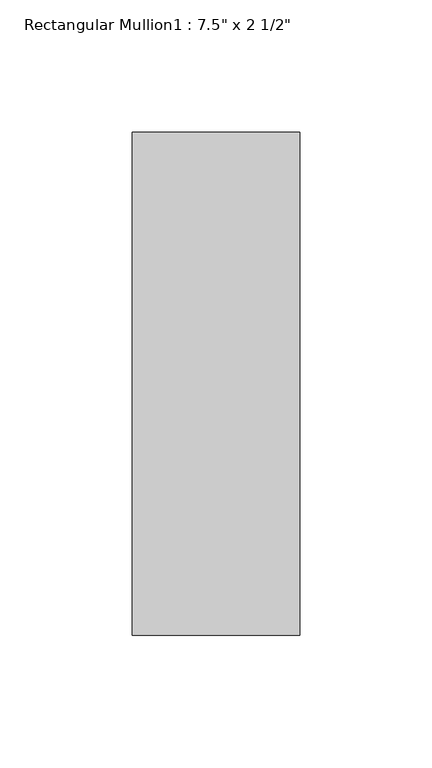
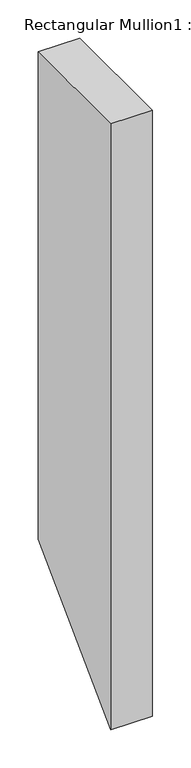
"""IFC4 building model written with IfcOpenShell, lengths in millimetres: member geometry."""

from ifc_helpers import new_model, si_unit, frame, origin, place, context, project, spatial, polyline, outline, extrude, source, transform, mapped, element, save


def member_03cbfd74(model_context):
    return source(origin(), model_context, "Body", "SweptSolid", [
        extrude(outline(polyline([(-25.4, 0.0), (165.1, 0.0), (165.1, -781.05), (-25.4, -971.55), (-25.4, 0.0)])), frame((-31.75, 0.0, 0.0), z_axis=(1.0, 0.0, 0.0), x_axis=(0.0, 1.0, 0.0)), (0.0, 0.0, 1.0), 63.5),
    ])


if __name__ == "__main__":
    model = new_model("IFC4")
    model_context = context("Model", 3, world=origin())
    ifc_project = project(units=[si_unit("LENGTHUNIT", "METRE", prefix="MILLI")], contexts=[model_context])
    site = spatial("IfcSite", under=ifc_project)
    building = spatial("IfcBuilding", under=site)
    placement = place(None, origin())
    member_shape = member_03cbfd74(model_context)
    element("IfcMember", 1, ObjectType="Rectangular Mullion1 : 7.5\" x 2 1/2\"", at=placement, inside=building, context=model_context, shape_type="MappedRepresentation", body=[
        mapped(member_shape, transform((0.0, 0.0, 0.0), x_axis=(1.0, 0.0, 0.0), y_axis=(0.0, 1.0, 0.0), z_axis=(0.0, 0.0, 1.0))),
    ])
    save(model, "model.ifc")
